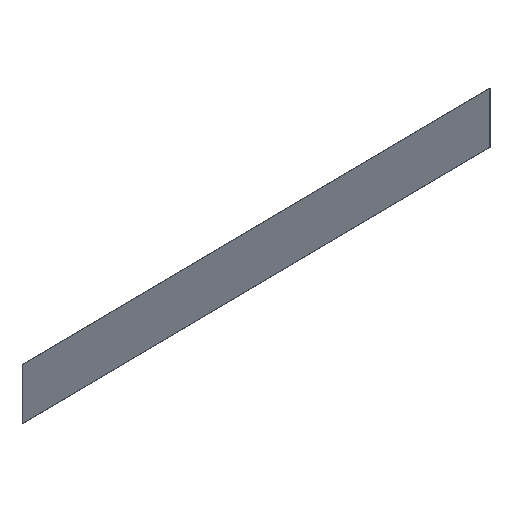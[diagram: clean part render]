
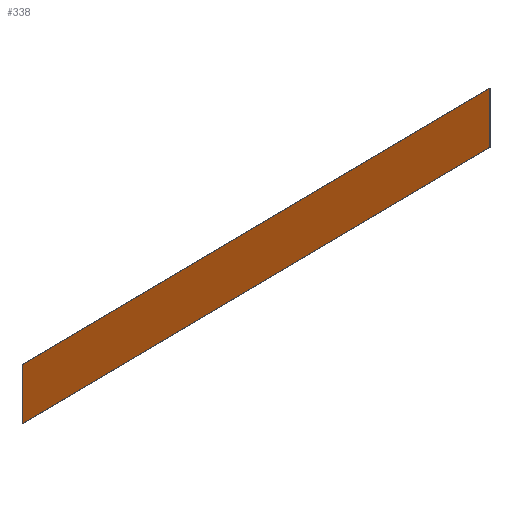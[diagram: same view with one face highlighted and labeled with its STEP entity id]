
A CAD part, isometric view. The second image highlights one B-rep face of the part: STEP entity #338.
In plain terms, the highlighted planar face has unit normal (0.012, -1, 0).
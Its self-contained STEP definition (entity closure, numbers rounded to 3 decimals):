
#24 = VERTEX_POINT('',#25);
#25 = CARTESIAN_POINT('',(-437.917,-174.108,2.5));
#32 = PLANE('',#33);
#33 = AXIS2_PLACEMENT_3D('',#34,#35,#36);
#34 = CARTESIAN_POINT('',(-437.919,-173.958,2.5));
#35 = DIRECTION('',(-0.,0.,1.));
#36 = DIRECTION('',(1.,0.012,0.));
#44 = PLANE('',#45);
#45 = AXIS2_PLACEMENT_3D('',#46,#47,#48);
#46 = CARTESIAN_POINT('',(-437.919,-173.958,23.5));
#47 = DIRECTION('',(1.,0.012,0.));
#48 = DIRECTION('',(0.,0.,-1.));
#56 = EDGE_CURVE('',#24,#57,#59,.T.);
#57 = VERTEX_POINT('',#58);
#58 = CARTESIAN_POINT('',(-244.139,-171.869,2.5));
#59 = SURFACE_CURVE('',#60,(#64,#71),.PCURVE_S1.);
#60 = LINE('',#61,#62);
#61 = CARTESIAN_POINT('',(-437.917,-174.108,2.5));
#62 = VECTOR('',#63,1.);
#63 = DIRECTION('',(1.,0.012,0.));
#64 = PCURVE('',#32,#65);
#65 = DEFINITIONAL_REPRESENTATION('',(#66),#70);
#66 = LINE('',#67,#68);
#67 = CARTESIAN_POINT('',(0.,-0.15));
#68 = VECTOR('',#69,1.);
#69 = DIRECTION('',(1.,0.));
#70 = ( GEOMETRIC_REPRESENTATION_CONTEXT(2) 
PARAMETRIC_REPRESENTATION_CONTEXT() REPRESENTATION_CONTEXT('2D SPACE',''
  ) );
#71 = PCURVE('',#72,#77);
#72 = PLANE('',#73);
#73 = AXIS2_PLACEMENT_3D('',#74,#75,#76);
#74 = CARTESIAN_POINT('',(-341.028,-172.989,13.));
#75 = DIRECTION('',(0.012,-1.,-0.));
#76 = DIRECTION('',(-1.,-0.012,0.));
#77 = DEFINITIONAL_REPRESENTATION('',(#78),#82);
#78 = LINE('',#79,#80);
#79 = CARTESIAN_POINT('',(96.895,10.5));
#80 = VECTOR('',#81,1.);
#81 = DIRECTION('',(-1.,0.));
#82 = ( GEOMETRIC_REPRESENTATION_CONTEXT(2) 
PARAMETRIC_REPRESENTATION_CONTEXT() REPRESENTATION_CONTEXT('2D SPACE',''
  ) );
#100 = PLANE('',#101);
#101 = AXIS2_PLACEMENT_3D('',#102,#103,#104);
#102 = CARTESIAN_POINT('',(-244.141,-171.719,2.5));
#103 = DIRECTION('',(-1.,-0.012,0.));
#104 = DIRECTION('',(0.,0.,1.));
#142 = EDGE_CURVE('',#57,#143,#145,.T.);
#143 = VERTEX_POINT('',#144);
#144 = CARTESIAN_POINT('',(-244.139,-171.869,23.5));
#145 = SURFACE_CURVE('',#146,(#150,#157),.PCURVE_S1.);
#146 = LINE('',#147,#148);
#147 = CARTESIAN_POINT('',(-244.139,-171.869,2.5));
#148 = VECTOR('',#149,1.);
#149 = DIRECTION('',(0.,0.,1.));
#150 = PCURVE('',#100,#151);
#151 = DEFINITIONAL_REPRESENTATION('',(#152),#156);
#152 = LINE('',#153,#154);
#153 = CARTESIAN_POINT('',(0.,-0.15));
#154 = VECTOR('',#155,1.);
#155 = DIRECTION('',(1.,0.));
#156 = ( GEOMETRIC_REPRESENTATION_CONTEXT(2) 
PARAMETRIC_REPRESENTATION_CONTEXT() REPRESENTATION_CONTEXT('2D SPACE',''
  ) );
#157 = PCURVE('',#72,#158);
#158 = DEFINITIONAL_REPRESENTATION('',(#159),#163);
#159 = LINE('',#160,#161);
#160 = CARTESIAN_POINT('',(-96.895,10.5));
#161 = VECTOR('',#162,1.);
#162 = DIRECTION('',(0.,-1.));
#163 = ( GEOMETRIC_REPRESENTATION_CONTEXT(2) 
PARAMETRIC_REPRESENTATION_CONTEXT() REPRESENTATION_CONTEXT('2D SPACE',''
  ) );
#181 = PLANE('',#182);
#182 = AXIS2_PLACEMENT_3D('',#183,#184,#185);
#183 = CARTESIAN_POINT('',(-244.141,-171.719,23.5));
#184 = DIRECTION('',(0.,-0.,-1.));
#185 = DIRECTION('',(-1.,-0.012,0.));
#218 = EDGE_CURVE('',#143,#219,#221,.T.);
#219 = VERTEX_POINT('',#220);
#220 = CARTESIAN_POINT('',(-437.917,-174.108,23.5));
#221 = SURFACE_CURVE('',#222,(#226,#233),.PCURVE_S1.);
#222 = LINE('',#223,#224);
#223 = CARTESIAN_POINT('',(-244.139,-171.869,23.5));
#224 = VECTOR('',#225,1.);
#225 = DIRECTION('',(-1.,-0.012,0.));
#226 = PCURVE('',#181,#227);
#227 = DEFINITIONAL_REPRESENTATION('',(#228),#232);
#228 = LINE('',#229,#230);
#229 = CARTESIAN_POINT('',(0.,-0.15));
#230 = VECTOR('',#231,1.);
#231 = DIRECTION('',(1.,0.));
#232 = ( GEOMETRIC_REPRESENTATION_CONTEXT(2) 
PARAMETRIC_REPRESENTATION_CONTEXT() REPRESENTATION_CONTEXT('2D SPACE',''
  ) );
#233 = PCURVE('',#72,#234);
#234 = DEFINITIONAL_REPRESENTATION('',(#235),#239);
#235 = LINE('',#236,#237);
#236 = CARTESIAN_POINT('',(-96.895,-10.5));
#237 = VECTOR('',#238,1.);
#238 = DIRECTION('',(1.,0.));
#239 = ( GEOMETRIC_REPRESENTATION_CONTEXT(2) 
PARAMETRIC_REPRESENTATION_CONTEXT() REPRESENTATION_CONTEXT('2D SPACE',''
  ) );
#289 = EDGE_CURVE('',#219,#24,#290,.T.);
#290 = SURFACE_CURVE('',#291,(#295,#302),.PCURVE_S1.);
#291 = LINE('',#292,#293);
#292 = CARTESIAN_POINT('',(-437.917,-174.108,23.5));
#293 = VECTOR('',#294,1.);
#294 = DIRECTION('',(0.,0.,-1.));
#295 = PCURVE('',#44,#296);
#296 = DEFINITIONAL_REPRESENTATION('',(#297),#301);
#297 = LINE('',#298,#299);
#298 = CARTESIAN_POINT('',(0.,-0.15));
#299 = VECTOR('',#300,1.);
#300 = DIRECTION('',(1.,0.));
#301 = ( GEOMETRIC_REPRESENTATION_CONTEXT(2) 
PARAMETRIC_REPRESENTATION_CONTEXT() REPRESENTATION_CONTEXT('2D SPACE',''
  ) );
#302 = PCURVE('',#72,#303);
#303 = DEFINITIONAL_REPRESENTATION('',(#304),#308);
#304 = LINE('',#305,#306);
#305 = CARTESIAN_POINT('',(96.895,-10.5));
#306 = VECTOR('',#307,1.);
#307 = DIRECTION('',(-0.,1.));
#308 = ( GEOMETRIC_REPRESENTATION_CONTEXT(2) 
PARAMETRIC_REPRESENTATION_CONTEXT() REPRESENTATION_CONTEXT('2D SPACE',''
  ) );
#338 = ADVANCED_FACE('',(#339),#72,.T.);
#339 = FACE_BOUND('',#340,.T.);
#340 = EDGE_LOOP('',(#341,#342,#343,#344));
#341 = ORIENTED_EDGE('',*,*,#56,.T.);
#342 = ORIENTED_EDGE('',*,*,#142,.T.);
#343 = ORIENTED_EDGE('',*,*,#218,.T.);
#344 = ORIENTED_EDGE('',*,*,#289,.T.);
